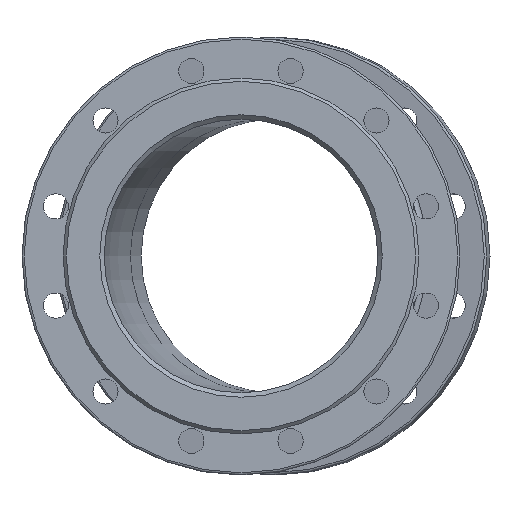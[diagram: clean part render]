
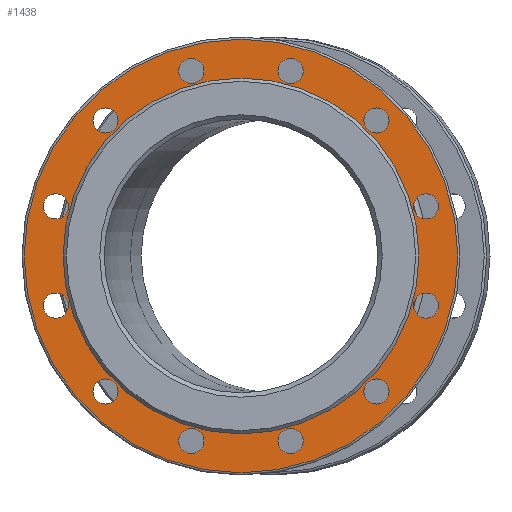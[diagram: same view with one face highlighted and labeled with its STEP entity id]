
A CAD part, left-side view. The second image highlights one B-rep face of the part: STEP entity #1438.
In plain terms, the highlighted planar face has unit normal (-1, 0, 0).
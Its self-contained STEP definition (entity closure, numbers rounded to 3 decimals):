
#8 = CIRCLE ( 'NONE', #1575, 11.5 ) ;
#43 = CARTESIAN_POINT ( 'NONE',  ( 3., 162.5, 0. ) ) ;
#48 = CARTESIAN_POINT ( 'NONE',  ( 3., 0., 162.5 ) ) ;
#56 = FACE_BOUND ( 'NONE', #188, .T. ) ;
#62 = VERTEX_POINT ( 'NONE', #2256 ) ;
#69 = FACE_BOUND ( 'NONE', #2037, .T. ) ;
#73 = CARTESIAN_POINT ( 'NONE',  ( 3., -123.744, 123.744 ) ) ;
#88 = VERTEX_POINT ( 'NONE', #48 ) ;
#105 = EDGE_CURVE ( 'NONE', #2214, #2214, #1547, .T. ) ;
#106 = CARTESIAN_POINT ( 'NONE',  ( 3., -169.037, -56.793 ) ) ;
#125 = ORIENTED_EDGE ( 'NONE', *, *, #1859, .F. ) ;
#141 = CARTESIAN_POINT ( 'NONE',  ( 3., 45.293, 169.037 ) ) ;
#183 = EDGE_LOOP ( 'NONE', ( #1623 ) ) ;
#188 = EDGE_LOOP ( 'NONE', ( #125 ) ) ;
#216 = AXIS2_PLACEMENT_3D ( 'NONE', #783, #1892, #2082 ) ;
#227 = EDGE_CURVE ( 'NONE', #2692, #2692, #1315, .T. ) ;
#244 = CARTESIAN_POINT ( 'NONE',  ( 3., 169.037, -56.793 ) ) ;
#274 = EDGE_CURVE ( 'NONE', #1775, #1775, #1456, .T. ) ;
#278 = VERTEX_POINT ( 'NONE', #343 ) ;
#279 = DIRECTION ( 'NONE',  ( 0., 0., -1. ) ) ;
#343 = CARTESIAN_POINT ( 'NONE',  ( 3., -169.037, 33.793 ) ) ;
#352 = AXIS2_PLACEMENT_3D ( 'NONE', #2420, #663, #1079 ) ;
#364 = CARTESIAN_POINT ( 'NONE',  ( 3., -169.037, 45.293 ) ) ;
#379 = CIRCLE ( 'NONE', #2648, 162.5 ) ;
#393 = EDGE_LOOP ( 'NONE', ( #2856 ) ) ;
#427 = CIRCLE ( 'NONE', #928, 11.5 ) ;
#453 = CARTESIAN_POINT ( 'NONE',  ( 3., 123.744, -123.744 ) ) ;
#458 = ORIENTED_EDGE ( 'NONE', *, *, #2684, .F. ) ;
#467 = FACE_BOUND ( 'NONE', #1942, .T. ) ;
#477 = DIRECTION ( 'NONE',  ( 0., 0., -1. ) ) ;
#482 = EDGE_LOOP ( 'NONE', ( #2705 ) ) ;
#496 = EDGE_LOOP ( 'NONE', ( #2708 ) ) ;
#501 = FACE_BOUND ( 'NONE', #1075, .T. ) ;
#507 = VERTEX_POINT ( 'NONE', #1830 ) ;
#558 = EDGE_LOOP ( 'NONE', ( #1353 ) ) ;
#561 = ORIENTED_EDGE ( 'NONE', *, *, #274, .F. ) ;
#594 = CARTESIAN_POINT ( 'NONE',  ( 3., -169.037, -45.293 ) ) ;
#627 = EDGE_CURVE ( 'NONE', #2863, #2863, #2418, .T. ) ;
#628 = DIRECTION ( 'NONE',  ( -1., 0., 0. ) ) ;
#635 = DIRECTION ( 'NONE',  ( -1., 0., 0. ) ) ;
#639 = ORIENTED_EDGE ( 'NONE', *, *, #105, .F. ) ;
#654 = CARTESIAN_POINT ( 'NONE',  ( 3., 0., 0. ) ) ;
#663 = DIRECTION ( 'NONE',  ( -1., 0., 0. ) ) ;
#671 = DIRECTION ( 'NONE',  ( -1., 0., 0. ) ) ;
#694 = AXIS2_PLACEMENT_3D ( 'NONE', #777, #2316, #983 ) ;
#705 = CARTESIAN_POINT ( 'NONE',  ( 3., 0., -198. ) ) ;
#777 = CARTESIAN_POINT ( 'NONE',  ( 3., -45.293, -169.037 ) ) ;
#783 = CARTESIAN_POINT ( 'NONE',  ( 3., 169.037, -45.293 ) ) ;
#790 = AXIS2_PLACEMENT_3D ( 'NONE', #364, #2852, #1915 ) ;
#834 = CARTESIAN_POINT ( 'NONE',  ( 3., -45.293, 169.037 ) ) ;
#839 = CIRCLE ( 'NONE', #2271, 198. ) ;
#854 = DIRECTION ( 'NONE',  ( 0., 0., -1. ) ) ;
#874 = EDGE_LOOP ( 'NONE', ( #639 ) ) ;
#896 = CARTESIAN_POINT ( 'NONE',  ( 3., 169.037, 33.793 ) ) ;
#928 = AXIS2_PLACEMENT_3D ( 'NONE', #594, #1658, #2569 ) ;
#941 = FACE_BOUND ( 'NONE', #393, .T. ) ;
#943 = DIRECTION ( 'NONE',  ( 0., 0., -1. ) ) ;
#952 = FACE_BOUND ( 'NONE', #482, .T. ) ;
#981 = AXIS2_PLACEMENT_3D ( 'NONE', #141, #635, #1501 ) ;
#983 = DIRECTION ( 'NONE',  ( 0., 0., -1. ) ) ;
#988 = VERTEX_POINT ( 'NONE', #705 ) ;
#1070 = ORIENTED_EDGE ( 'NONE', *, *, #1383, .F. ) ;
#1075 = EDGE_LOOP ( 'NONE', ( #2577 ) ) ;
#1079 = DIRECTION ( 'NONE',  ( 0., 0., -1. ) ) ;
#1083 = DIRECTION ( 'NONE',  ( -1., 0., 0. ) ) ;
#1089 = EDGE_CURVE ( 'NONE', #507, #507, #8, .T. ) ;
#1107 = CARTESIAN_POINT ( 'NONE',  ( 3., 45.293, -180.537 ) ) ;
#1130 = EDGE_CURVE ( 'NONE', #2480, #2480, #2699, .T. ) ;
#1160 = CARTESIAN_POINT ( 'NONE',  ( 3., 123.744, -135.244 ) ) ;
#1196 = EDGE_LOOP ( 'NONE', ( #561 ) ) ;
#1220 = ORIENTED_EDGE ( 'NONE', *, *, #227, .F. ) ;
#1225 = CARTESIAN_POINT ( 'NONE',  ( 3., 0., 0. ) ) ;
#1238 = DIRECTION ( 'NONE',  ( 0., 0., -1. ) ) ;
#1256 = DIRECTION ( 'NONE',  ( -1., 0., 0. ) ) ;
#1315 = CIRCLE ( 'NONE', #1972, 11.5 ) ;
#1316 = DIRECTION ( 'NONE',  ( 0., 0., 1. ) ) ;
#1353 = ORIENTED_EDGE ( 'NONE', *, *, #1089, .F. ) ;
#1354 = CIRCLE ( 'NONE', #981, 11.5 ) ;
#1367 = DIRECTION ( 'NONE',  ( -1., 0., 0. ) ) ;
#1383 = EDGE_CURVE ( 'NONE', #88, #88, #379, .T. ) ;
#1389 = AXIS2_PLACEMENT_3D ( 'NONE', #73, #671, #943 ) ;
#1393 = CARTESIAN_POINT ( 'NONE',  ( 3., 169.037, 45.293 ) ) ;
#1438 = ADVANCED_FACE ( 'NONE', ( #2019, #69, #1613, #2673, #1587, #1796, #2497, #2073, #2688, #467, #501, #56, #952, #941 ), #2515, .F. ) ;
#1443 = AXIS2_PLACEMENT_3D ( 'NONE', #453, #2469, #477 ) ;
#1456 = CIRCLE ( 'NONE', #216, 11.5 ) ;
#1501 = DIRECTION ( 'NONE',  ( 0., 0., -1. ) ) ;
#1547 = CIRCLE ( 'NONE', #352, 11.5 ) ;
#1557 = EDGE_CURVE ( 'NONE', #62, #62, #1570, .T. ) ;
#1562 = DIRECTION ( 'NONE',  ( 1., 0., 0. ) ) ;
#1570 = CIRCLE ( 'NONE', #694, 11.5 ) ;
#1575 = AXIS2_PLACEMENT_3D ( 'NONE', #2003, #1083, #854 ) ;
#1587 = FACE_BOUND ( 'NONE', #2501, .T. ) ;
#1609 = EDGE_CURVE ( 'NONE', #2095, #2095, #427, .T. ) ;
#1613 = FACE_BOUND ( 'NONE', #2680, .T. ) ;
#1623 = ORIENTED_EDGE ( 'NONE', *, *, #1634, .T. ) ;
#1634 = EDGE_CURVE ( 'NONE', #988, #988, #839, .T. ) ;
#1658 = DIRECTION ( 'NONE',  ( -1., 0., 0. ) ) ;
#1667 = CIRCLE ( 'NONE', #790, 11.5 ) ;
#1699 = CARTESIAN_POINT ( 'NONE',  ( 3., 45.293, 157.537 ) ) ;
#1705 = DIRECTION ( 'NONE',  ( -1., 0., 0. ) ) ;
#1775 = VERTEX_POINT ( 'NONE', #244 ) ;
#1796 = FACE_BOUND ( 'NONE', #1196, .T. ) ;
#1830 = CARTESIAN_POINT ( 'NONE',  ( 3., 123.744, 112.244 ) ) ;
#1837 = DIRECTION ( 'NONE',  ( 0., 0., -1. ) ) ;
#1857 = ORIENTED_EDGE ( 'NONE', *, *, #2725, .F. ) ;
#1859 = EDGE_CURVE ( 'NONE', #278, #278, #1667, .T. ) ;
#1862 = AXIS2_PLACEMENT_3D ( 'NONE', #2160, #2344, #2849 ) ;
#1892 = DIRECTION ( 'NONE',  ( -1., 0., 0. ) ) ;
#1906 = VERTEX_POINT ( 'NONE', #2542 ) ;
#1912 = CIRCLE ( 'NONE', #1862, 11.5 ) ;
#1915 = DIRECTION ( 'NONE',  ( 0., 0., -1. ) ) ;
#1921 = EDGE_CURVE ( 'NONE', #1906, #1906, #2366, .T. ) ;
#1922 = VERTEX_POINT ( 'NONE', #2386 ) ;
#1942 = EDGE_LOOP ( 'NONE', ( #458 ) ) ;
#1972 = AXIS2_PLACEMENT_3D ( 'NONE', #1393, #1367, #279 ) ;
#2003 = CARTESIAN_POINT ( 'NONE',  ( 3., 123.744, 123.744 ) ) ;
#2019 = FACE_OUTER_BOUND ( 'NONE', #183, .T. ) ;
#2034 = EDGE_LOOP ( 'NONE', ( #2066 ) ) ;
#2037 = EDGE_LOOP ( 'NONE', ( #1070 ) ) ;
#2066 = ORIENTED_EDGE ( 'NONE', *, *, #1130, .F. ) ;
#2073 = FACE_BOUND ( 'NONE', #874, .T. ) ;
#2082 = DIRECTION ( 'NONE',  ( 0., 0., -1. ) ) ;
#2095 = VERTEX_POINT ( 'NONE', #106 ) ;
#2160 = CARTESIAN_POINT ( 'NONE',  ( 3., -123.744, -123.744 ) ) ;
#2214 = VERTEX_POINT ( 'NONE', #1107 ) ;
#2256 = CARTESIAN_POINT ( 'NONE',  ( 3., -45.293, -180.537 ) ) ;
#2271 = AXIS2_PLACEMENT_3D ( 'NONE', #1225, #1256, #1238 ) ;
#2297 = CARTESIAN_POINT ( 'NONE',  ( 3., -123.744, 112.244 ) ) ;
#2315 = AXIS2_PLACEMENT_3D ( 'NONE', #43, #1562, #1837 ) ;
#2316 = DIRECTION ( 'NONE',  ( -1., 0., 0. ) ) ;
#2344 = DIRECTION ( 'NONE',  ( -1., 0., 0. ) ) ;
#2366 = CIRCLE ( 'NONE', #2464, 11.5 ) ;
#2386 = CARTESIAN_POINT ( 'NONE',  ( 3., -123.744, -135.244 ) ) ;
#2418 = CIRCLE ( 'NONE', #1389, 11.5 ) ;
#2420 = CARTESIAN_POINT ( 'NONE',  ( 3., 45.293, -169.037 ) ) ;
#2464 = AXIS2_PLACEMENT_3D ( 'NONE', #834, #1705, #2865 ) ;
#2469 = DIRECTION ( 'NONE',  ( -1., 0., 0. ) ) ;
#2480 = VERTEX_POINT ( 'NONE', #1160 ) ;
#2497 = FACE_BOUND ( 'NONE', #2034, .T. ) ;
#2501 = EDGE_LOOP ( 'NONE', ( #1220 ) ) ;
#2515 = PLANE ( 'NONE',  #2315 ) ;
#2542 = CARTESIAN_POINT ( 'NONE',  ( 3., -45.293, 157.537 ) ) ;
#2569 = DIRECTION ( 'NONE',  ( 0., 0., -1. ) ) ;
#2577 = ORIENTED_EDGE ( 'NONE', *, *, #1609, .F. ) ;
#2648 = AXIS2_PLACEMENT_3D ( 'NONE', #654, #628, #1316 ) ;
#2673 = FACE_BOUND ( 'NONE', #558, .T. ) ;
#2680 = EDGE_LOOP ( 'NONE', ( #1857 ) ) ;
#2684 = EDGE_CURVE ( 'NONE', #1922, #1922, #1912, .T. ) ;
#2688 = FACE_BOUND ( 'NONE', #496, .T. ) ;
#2692 = VERTEX_POINT ( 'NONE', #896 ) ;
#2699 = CIRCLE ( 'NONE', #1443, 11.5 ) ;
#2705 = ORIENTED_EDGE ( 'NONE', *, *, #627, .F. ) ;
#2708 = ORIENTED_EDGE ( 'NONE', *, *, #1557, .F. ) ;
#2725 = EDGE_CURVE ( 'NONE', #2765, #2765, #1354, .T. ) ;
#2765 = VERTEX_POINT ( 'NONE', #1699 ) ;
#2849 = DIRECTION ( 'NONE',  ( 0., 0., -1. ) ) ;
#2852 = DIRECTION ( 'NONE',  ( -1., 0., 0. ) ) ;
#2856 = ORIENTED_EDGE ( 'NONE', *, *, #1921, .F. ) ;
#2863 = VERTEX_POINT ( 'NONE', #2297 ) ;
#2865 = DIRECTION ( 'NONE',  ( 0., 0., -1. ) ) ;
